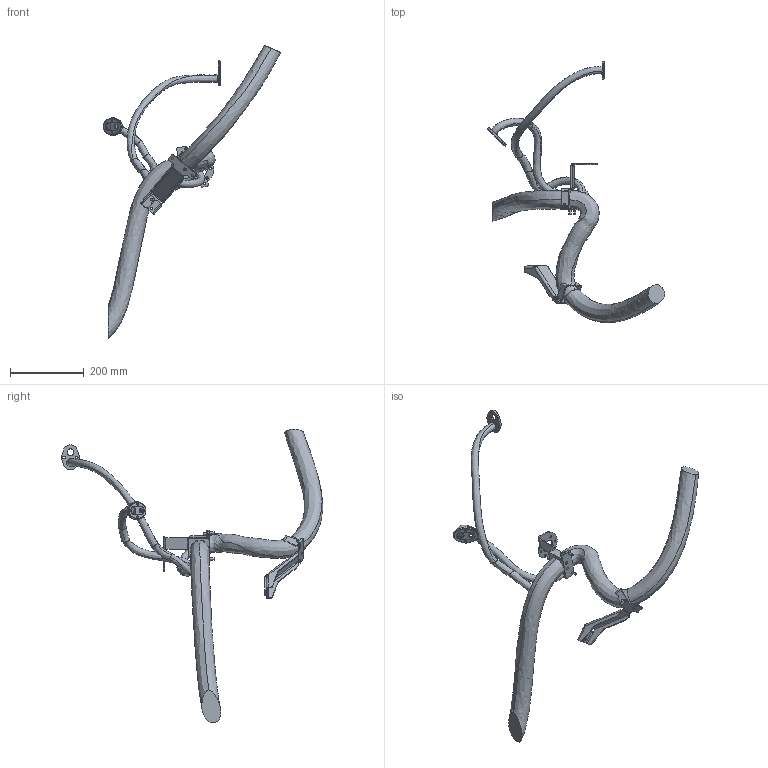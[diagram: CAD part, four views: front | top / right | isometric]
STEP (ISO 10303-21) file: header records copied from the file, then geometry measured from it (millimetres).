
FILE_DESCRIPTION (( 'STEP AP214' ), '1' );
FILE_NAME ('IRB6700-SW6_145-320_IRC5_rev02_LINK01m_CABLE.STEP', '2016-01-27T12:19:13', ( 'ABB' ), ( 'ABB' ), 'SwSTEP 2.0', 'SolidWorks 2014', '' );
FILE_SCHEMA (( 'AUTOMOTIVE_DESIGN' ));
Length unit declared in the file: millimetre
Products named in the file (1): IRB6700-SW6_145-320_IRC5_rev02_LINK01m_CABLE
Bounding box: 481.44 x 710.61 x 797.51 mm (x, y, z)
Volume: 2942207.8 mm3; surface area: 351919.7 mm2
Topology: 1 solids, 2 shells, 472 faces, 1304 edges, 838 vertices
Faces by surface type: plane 234, cylinder 202, bspline 26, cone 10
Entity records: 24912 total; most frequent: CARTESIAN_POINT 12737, ORIENTED_EDGE 2608, DIRECTION 2376, EDGE_CURVE 1304, AXIS2_PLACEMENT_3D 865, VERTEX_POINT 838, VECTOR 646, LINE 646
